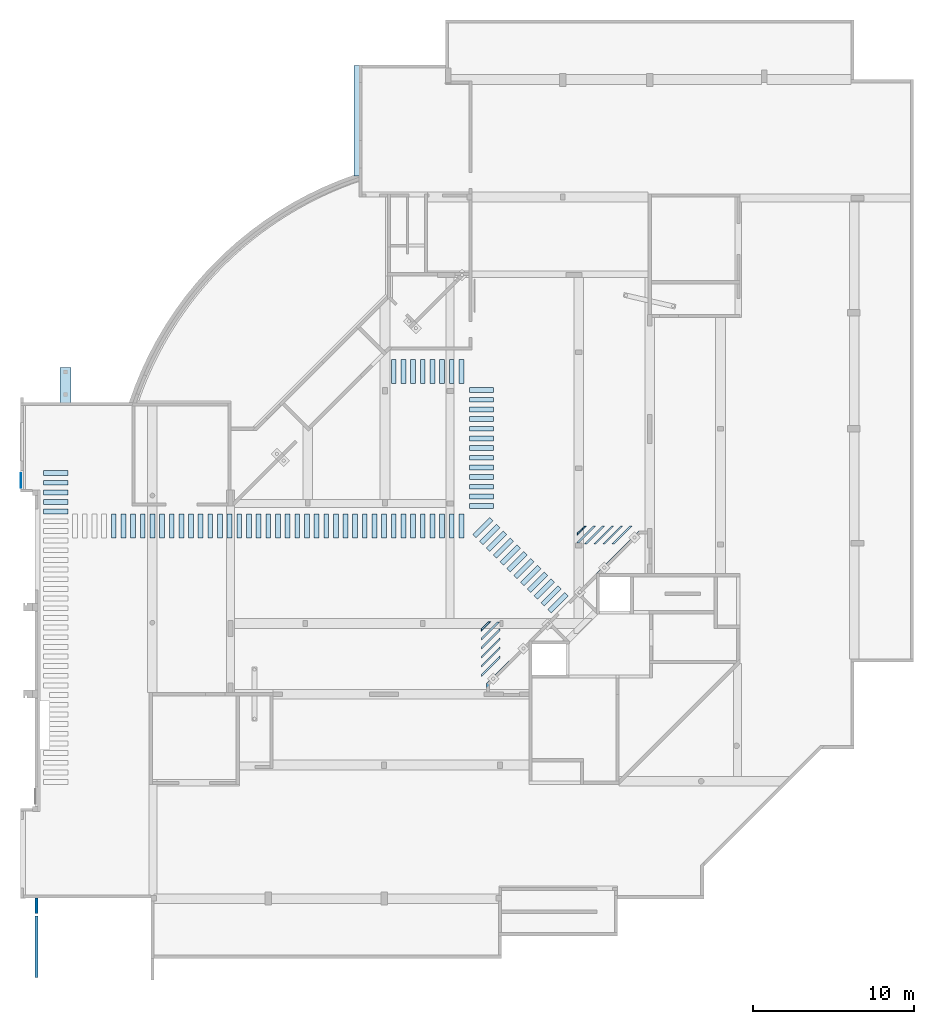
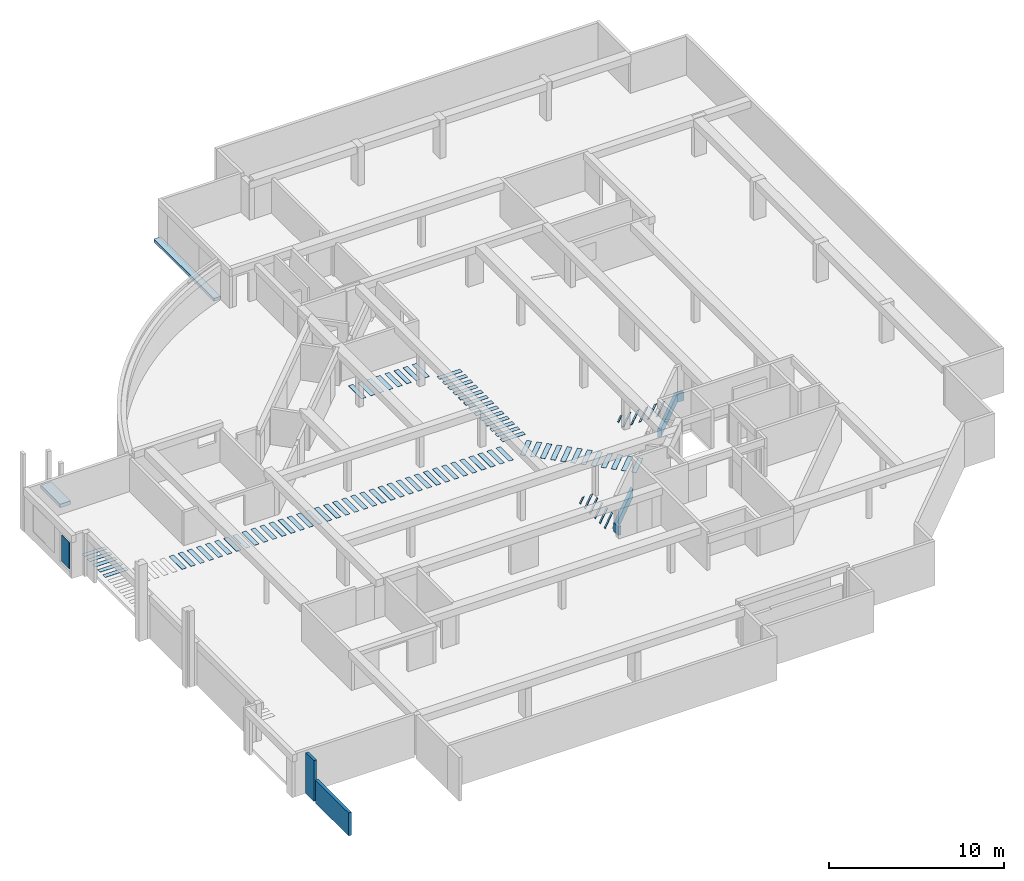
# One storey, part 3 of 12: 91 slabs, 2 walls, 1 plate.
"""IFC4X3_ADD2 building model written with IfcOpenShell, lengths in millimetres."""

from ifc_helpers import new_model, si_unit, direction, frame, frame_2d, origin_with_axes, origin_2d_with_axis, place, context, subcontext, project, spatial, polyline, rectangle, outline, extrude, clip, bounded_halfspace, source, transform, mapped, material, type_object, element, save


model = new_model("IFC4X3_ADD2")

# Units and contexts
model_context = context("Model", 3, precision=1e-05, world=origin_with_axes(), true_north=direction((0.0, 1.0)))
body_context = subcontext(model_context, "Body", "Model", "MODEL_VIEW")
ifc_project = project(units=[si_unit("LENGTHUNIT", "METRE", prefix="MILLI"), si_unit("AREAUNIT", "SQUARE_METRE"), si_unit("VOLUMEUNIT", "CUBIC_METRE"), si_unit("PLANEANGLEUNIT", "RADIAN"), si_unit("TIMEUNIT", "SECOND"), si_unit("MASSUNIT", "GRAM")], contexts=[model_context])

# Site, building, storey
site_placement = place(None, origin_with_axes())
site = spatial("IfcSite", under=ifc_project, at=site_placement, Name="Site", CompositionType="ELEMENT")
building_placement = place(site_placement, origin_with_axes())
building = spatial("IfcBuilding", under=site, at=building_placement, Name="IFC Building Story")
storey_placement = place(building_placement, frame((0.0, 0.0, -5940.0), z_axis=(0.0, 0.0, 1.0), x_axis=(1.0, 0.0, 0.0)))
storey = spatial("IfcBuildingStorey", under=building, at=storey_placement, Name="K20", Elevation=-5940.0)

# Slab
ifc_material_1 = material(Name="BB_Beton_Bestaand")
slab_type_1 = type_object("IfcSlabType", Name="BB_Beton_Bestaand 200", PredefinedType="FLOOR", material=ifc_material_1)
slab_1_placement = place(storey_placement, frame((-30959.20203089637, 51670.00000000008, -200.0), z_axis=(0.0, 0.0, 1.0), x_axis=(0.0, -1.0, 0.0)))
element("IfcSlab", 1, at=slab_1_placement, inside=storey, type_object=slab_type_1, Name="Floor:BB_XX_Vloer welfsels, 200 mm", ObjectType="Floor:BB_XX_Vloer welfsels, 200 mm", PredefinedType="FLOOR", context=body_context, shape_type="SweptSolid", body=[
    extrude(rectangle(XDim=6869.34417367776, YDim=459.2020308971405, at=frame_2d((0.0, 0.0), x_axis=(-1.0, 0.0))), frame((3434.67208683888, 229.6010154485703, 0.0), z_axis=(0.0, 0.0, 1.0), x_axis=(1.0, 0.0, 0.0)), (0.0, 0.0, 1.0), 200.0),
])

# Plate
ifc_material_2 = material(Name="BB_Metaal_Aluminium_Buitenschrijnwerk")
shared_shape = source(origin_with_axes(), body_context, "Body", "SweptSolid", [
    extrude(rectangle(XDim=1846.000000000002, YDim=888.000000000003, at=frame_2d((0.0, 0.0), x_axis=(0.0, 1.0))), frame((0.0, 0.0, -44.0), z_axis=(0.0, 0.0, 1.0), x_axis=(1.0, 0.0, 0.0)), (0.0, 0.0, 1.0), 44.0),
])
plate_placement = place(storey_placement, frame((-51636.0, 25895.0, 1021.0), z_axis=(1.0, 0.0, 0.0), x_axis=(0.0, -1.0, 0.0)))
element("IfcPlate", 2, at=plate_placement, inside=storey, material=ifc_material_2, Name="BB_07.06_Buitenbeglazing, rechthoekig_GMO:07.04.63#01_Vulpaneel, 44 mm", ObjectType="BB_07.06_Buitenbeglazing, rechthoekig_GMO:07.04.63#01_Vulpaneel, 44 mm", PredefinedType="USERDEFINED", context=body_context, shape_type="MappedRepresentation", body=[
    mapped(shared_shape, transform((0.0, 0.0, 0.0))),
])

# Slabs
ifc_material_3 = material(Name="BB_Belijning parkeervakken_Nieuw")
slab_type_2 = type_object("IfcSlabType", Name="BB_Belijning parkeervakken_Nieuw 10", PredefinedType="FLOOR", material=ifc_material_3)
for number, where, z_axis, x_axis, name in (
    (3, (-50249.99999999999, 23800.0, 0.0), (0.0, 0.0, 1.0), (1.0, 0.0, 0.0), "Floor:BB_13.XX_Epoxyverf, belijning zebrapaden"),
    (4, (-50249.99999999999, 24400.0, 0.0), (0.0, 0.0, 1.0), (1.0, 0.0, 0.0), "Floor:BB_13.XX_Epoxyverf, belijning zebrapaden"),
    (5, (-50249.99999999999, 25000.0, 0.0), (0.0, 0.0, 1.0), (1.0, 0.0, 0.0), "Floor:BB_13.XX_Epoxyverf, belijning zebrapaden"),
    (6, (-50249.99999999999, 25600.0, 0.0), (0.0, 0.0, 1.0), (1.0, 0.0, 0.0), "Floor:BB_13.XX_Epoxyverf, belijning zebrapaden"),
    (7, (-50249.99999999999, 26200.0, 0.0), (0.0, 0.0, 1.0), (1.0, 0.0, 0.0), "Floor:BB_13.XX_Epoxyverf, belijning zebrapaden"),
):
    element("IfcSlab", number, at=place(storey_placement, frame(where, z_axis=z_axis, x_axis=x_axis)), inside=storey, type_object=slab_type_2, Name=name, ObjectType="Floor:BB_13.XX_Epoxyverf, belijning zebrapaden", PredefinedType="FLOOR", context=body_context, shape_type="SweptSolid", body=[
        extrude(rectangle(XDim=1499.999999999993, YDim=300.0, at=origin_2d_with_axis()), frame((750.0, 150.0, 0.0), z_axis=(0.0, 0.0, 1.0), x_axis=(1.0, 0.0, 0.0)), (0.0, 0.0, 1.0), 9.99999999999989),
    ])
for number, where, z_axis, x_axis, name in (
    (8, (-46050.0, 23800.0, 0.0), (0.0, 0.0, 1.0), (0.0, -1.0, 0.0), "Floor:BB_13.XX_Epoxyverf, belijning zebrapaden"),
    (9, (-45450.0, 23800.0, 0.0), (0.0, 0.0, 1.0), (0.0, -1.0, 0.0), "Floor:BB_13.XX_Epoxyverf, belijning zebrapaden"),
    (10, (-44850.0, 23800.0, 0.0), (0.0, 0.0, 1.0), (0.0, -1.0, 0.0), "Floor:BB_13.XX_Epoxyverf, belijning zebrapaden"),
    (11, (-44250.0, 23800.0, 0.0), (0.0, 0.0, 1.0), (0.0, -1.0, 0.0), "Floor:BB_13.XX_Epoxyverf, belijning zebrapaden"),
    (12, (-43650.0, 23800.0, 0.0), (0.0, 0.0, 1.0), (0.0, -1.0, 0.0), "Floor:BB_13.XX_Epoxyverf, belijning zebrapaden"),
    (13, (-43050.0, 23800.0, 0.0), (0.0, 0.0, 1.0), (0.0, -1.0, 0.0), "Floor:BB_13.XX_Epoxyverf, belijning zebrapaden"),
    (14, (-42450.0, 23800.0, 0.0), (0.0, 0.0, 1.0), (0.0, -1.0, 0.0), "Floor:BB_13.XX_Epoxyverf, belijning zebrapaden"),
    (15, (-41850.0, 23800.0, 0.0), (0.0, 0.0, 1.0), (0.0, -1.0, 0.0), "Floor:BB_13.XX_Epoxyverf, belijning zebrapaden"),
    (16, (-41250.0, 23800.0, 0.0), (0.0, 0.0, 1.0), (0.0, -1.0, 0.0), "Floor:BB_13.XX_Epoxyverf, belijning zebrapaden"),
    (17, (-40650.0, 23800.0, 0.0), (0.0, 0.0, 1.0), (0.0, -1.0, 0.0), "Floor:BB_13.XX_Epoxyverf, belijning zebrapaden"),
    (18, (-40050.0, 23800.0, 0.0), (0.0, 0.0, 1.0), (0.0, -1.0, 0.0), "Floor:BB_13.XX_Epoxyverf, belijning zebrapaden"),
    (19, (-39450.0, 23800.0, 0.0), (0.0, 0.0, 1.0), (0.0, -1.0, 0.0), "Floor:BB_13.XX_Epoxyverf, belijning zebrapaden"),
):
    element("IfcSlab", number, at=place(storey_placement, frame(where, z_axis=z_axis, x_axis=x_axis)), inside=storey, type_object=slab_type_2, Name=name, ObjectType="Floor:BB_13.XX_Epoxyverf, belijning zebrapaden", PredefinedType="FLOOR", context=body_context, shape_type="SweptSolid", body=[
        extrude(rectangle(XDim=1499.999999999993, YDim=300.0, at=frame_2d((0.0, 0.0), x_axis=(-1.0, 0.0))), frame((750.0, 150.0, 0.0), z_axis=(0.0, 0.0, 1.0), x_axis=(1.0, 0.0, 0.0)), (0.0, 0.0, 1.0), 9.99999999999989),
    ])
slab_2_placement = place(storey_placement, frame((-38850.0, 23800.0, 0.0), z_axis=(0.0, 0.0, 1.0), x_axis=(0.0, -1.0, 0.0)))
element("IfcSlab", 20, at=slab_2_placement, inside=storey, type_object=slab_type_2, Name="Floor:BB_13.XX_Epoxyverf, belijning zebrapaden", ObjectType="Floor:BB_13.XX_Epoxyverf, belijning zebrapaden", PredefinedType="FLOOR", context=body_context, shape_type="SweptSolid", body=[
    extrude(rectangle(XDim=1499.999999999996, YDim=300.0, at=frame_2d((0.0, 0.0), x_axis=(-1.0, 0.0))), frame((750.0, 150.0, 0.0), z_axis=(0.0, 0.0, 1.0), x_axis=(1.0, 0.0, 0.0)), (0.0, 0.0, 1.0), 9.99999999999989),
])
slab_3_placement = place(storey_placement, frame((-22555.02525316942, 17170.71067811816, 0.0), z_axis=(0.0, 0.0, 1.0), x_axis=(-0.7071067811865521, -0.707106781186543, 0.0)))
element("IfcSlab", 21, at=slab_3_placement, inside=storey, type_object=slab_type_2, Name="Floor:BB_13.XX_Epoxyverf, belijning arcering", ObjectType="Floor:BB_13.XX_Epoxyverf, belijning arcering", PredefinedType="FLOOR", context=body_context, shape_type="SweptSolid", body=[
    extrude(outline(polyline([(-399.9999999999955, 49.99999999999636), (399.9999999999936, 49.99999999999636), (300.0, -50.0), (-299.9999999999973, -50.0), (-399.9999999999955, 49.99999999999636)])), frame((400.0, 50.0, 0.0), z_axis=(0.0, 0.0, 1.0), x_axis=(1.0, 0.0, 0.0)), (0.0, 0.0, 1.0), 9.99999999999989),
])
slab_4_placement = place(storey_placement, frame((-21989.33982822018, 17170.71067811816, 0.0), z_axis=(0.0, 0.0, 1.0), x_axis=(-0.7071067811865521, -0.707106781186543, 0.0)))
element("IfcSlab", 22, at=slab_4_placement, inside=storey, type_object=slab_type_2, Name="Floor:BB_13.XX_Epoxyverf, belijning arcering:2", ObjectType="Floor:BB_13.XX_Epoxyverf, belijning arcering", PredefinedType="FLOOR", context=body_context, shape_type="SweptSolid", body=[
    extrude(outline(polyline([(-799.9999999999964, 50.0), (799.9999999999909, 50.0), (699.9999999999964, -49.99999999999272), (-699.9999999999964, -50.0), (-799.9999999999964, 50.0)])), frame((799.9999999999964, 50.0, 0.0), z_axis=(0.0, 0.0, 1.0), x_axis=(1.0, 0.0, 0.0)), (0.0, 0.0, 1.0), 9.99999999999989),
])
for number, where, z_axis, x_axis, name in (
    (23, (-21900.00000000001, 16694.3650813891, 0.0), (0.0, 0.0, 1.0), (-0.7071067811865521, -0.707106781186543, 0.0), "Floor:BB_13.XX_Epoxyverf, belijning arcering:3"),
    (24, (-21900.00000000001, 16128.67965643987, 0.0), (0.0, 0.0, 1.0), (-0.7071067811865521, -0.707106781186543, 0.0), "Floor:BB_13.XX_Epoxyverf, belijning arcering:4"),
    (25, (-21900.00000000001, 15562.99423149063, 0.0), (0.0, 0.0, 1.0), (-0.7071067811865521, -0.707106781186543, 0.0), "Floor:BB_13.XX_Epoxyverf, belijning arcering:5"),
    (26, (-21900.00000000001, 14997.3088065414, 0.0), (0.0, 0.0, 1.0), (-0.7071067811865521, -0.707106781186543, 0.0), "Floor:BB_13.XX_Epoxyverf, belijning arcering:6"),
):
    element("IfcSlab", number, at=place(storey_placement, frame(where, z_axis=z_axis, x_axis=x_axis)), inside=storey, type_object=slab_type_2, Name=name, ObjectType="Floor:BB_13.XX_Epoxyverf, belijning arcering", PredefinedType="FLOOR", context=body_context, shape_type="SweptSolid", body=[
        extrude(outline(polyline([(-763.1727983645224, 49.99999999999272), (863.1727983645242, 49.99999999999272), (763.1727983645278, -50.00000000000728), (-863.1727983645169, -50.00000000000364), (-763.1727983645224, 49.99999999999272)])), frame((863.1727983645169, 49.99999999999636, 0.0), z_axis=(0.0, 0.0, 1.0), x_axis=(1.0, 0.0, 0.0)), (0.0, 0.0, 1.0), 9.99999999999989),
    ])
for number, where, z_axis, x_axis, name in (
    (27, (-38250.0, 23800.0, 0.0), (0.0, 0.0, 1.0), (0.0, -1.0, 0.0), "Floor:BB_13.XX_Epoxyverf, belijning zebrapaden"),
    (28, (-37650.0, 23800.0, 0.0), (0.0, 0.0, 1.0), (0.0, -1.0, 0.0), "Floor:BB_13.XX_Epoxyverf, belijning zebrapaden"),
    (29, (-37050.0, 23800.0, 0.0), (0.0, 0.0, 1.0), (0.0, -1.0, 0.0), "Floor:BB_13.XX_Epoxyverf, belijning zebrapaden"),
    (30, (-36450.0, 23800.0, 0.0), (0.0, 0.0, 1.0), (0.0, -1.0, 0.0), "Floor:BB_13.XX_Epoxyverf, belijning zebrapaden"),
    (31, (-35850.0, 23800.0, 0.0), (0.0, 0.0, 1.0), (0.0, -1.0, 0.0), "Floor:BB_13.XX_Epoxyverf, belijning zebrapaden"),
    (32, (-35250.0, 23800.0, 0.0), (0.0, 0.0, 1.0), (0.0, -1.0, 0.0), "Floor:BB_13.XX_Epoxyverf, belijning zebrapaden"),
    (33, (-34650.0, 23800.0, 0.0), (0.0, 0.0, 1.0), (0.0, -1.0, 0.0), "Floor:BB_13.XX_Epoxyverf, belijning zebrapaden"),
    (34, (-34050.0, 23800.0, 0.0), (0.0, 0.0, 1.0), (0.0, -1.0, 0.0), "Floor:BB_13.XX_Epoxyverf, belijning zebrapaden"),
    (35, (-33450.0, 23800.0, 0.0), (0.0, 0.0, 1.0), (0.0, -1.0, 0.0), "Floor:BB_13.XX_Epoxyverf, belijning zebrapaden"),
):
    element("IfcSlab", number, at=place(storey_placement, frame(where, z_axis=z_axis, x_axis=x_axis)), inside=storey, type_object=slab_type_2, Name=name, ObjectType="Floor:BB_13.XX_Epoxyverf, belijning zebrapaden", PredefinedType="FLOOR", context=body_context, shape_type="SweptSolid", body=[
        extrude(rectangle(XDim=1499.999999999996, YDim=300.0, at=frame_2d((0.0, 0.0), x_axis=(-1.0, 0.0))), frame((750.0, 150.0, 0.0), z_axis=(0.0, 0.0, 1.0), x_axis=(1.0, 0.0, 0.0)), (0.0, 0.0, 1.0), 9.99999999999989),
    ])
slab_5_placement = place(storey_placement, frame((-32850.0, 23800.0, 0.0), z_axis=(0.0, 0.0, 1.0), x_axis=(0.0, -1.0, 0.0)))
element("IfcSlab", 36, at=slab_5_placement, inside=storey, type_object=slab_type_2, Name="Floor:BB_13.XX_Epoxyverf, belijning zebrapaden", ObjectType="Floor:BB_13.XX_Epoxyverf, belijning zebrapaden", PredefinedType="FLOOR", context=body_context, shape_type="SweptSolid", body=[
    extrude(rectangle(XDim=1499.999999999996, YDim=299.9999999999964, at=frame_2d((0.0, 0.0), x_axis=(-1.0, 0.0))), frame((750.0, 150.0, 0.0), z_axis=(0.0, 0.0, 1.0), x_axis=(1.0, 0.0, 0.0)), (0.0, 0.0, 1.0), 9.99999999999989),
])
for number, where, z_axis, x_axis, name in (
    (37, (-32250.0, 23800.0, 0.0), (0.0, 0.0, 1.0), (0.0, -1.0, 0.0), "Floor:BB_13.XX_Epoxyverf, belijning zebrapaden"),
    (38, (-31650.0, 23800.0, 0.0), (0.0, 0.0, 1.0), (0.0, -1.0, 0.0), "Floor:BB_13.XX_Epoxyverf, belijning zebrapaden"),
    (39, (-31050.0, 23800.0, 0.0), (0.0, 0.0, 1.0), (0.0, -1.0, 0.0), "Floor:BB_13.XX_Epoxyverf, belijning zebrapaden"),
    (40, (-30450.0, 23800.0, 0.0), (0.0, 0.0, 1.0), (0.0, -1.0, 0.0), "Floor:BB_13.XX_Epoxyverf, belijning zebrapaden"),
    (41, (-29850.0, 23800.0, 0.0), (0.0, 0.0, 1.0), (0.0, -1.0, 0.0), "Floor:BB_13.XX_Epoxyverf, belijning zebrapaden"),
    (42, (-29250.0, 23800.0, 0.0), (0.0, 0.0, 1.0), (0.0, -1.0, 0.0), "Floor:BB_13.XX_Epoxyverf, belijning zebrapaden"),
    (43, (-28650.0, 23800.0, 0.0), (0.0, 0.0, 1.0), (0.0, -1.0, 0.0), "Floor:BB_13.XX_Epoxyverf, belijning zebrapaden"),
    (44, (-28050.0, 23800.0, 0.0), (0.0, 0.0, 1.0), (0.0, -1.0, 0.0), "Floor:BB_13.XX_Epoxyverf, belijning zebrapaden"),
    (45, (-27450.0, 23800.0, 0.0), (0.0, 0.0, 1.0), (0.0, -1.0, 0.0), "Floor:BB_13.XX_Epoxyverf, belijning zebrapaden"),
    (46, (-26850.0, 23800.0, 0.0), (0.0, 0.0, 1.0), (0.0, -1.0, 0.0), "Floor:BB_13.XX_Epoxyverf, belijning zebrapaden"),
    (47, (-26250.0, 23800.0, 0.0), (0.0, 0.0, 1.0), (0.0, -1.0, 0.0), "Floor:BB_13.XX_Epoxyverf, belijning zebrapaden"),
    (48, (-25650.0, 23800.0, 0.0), (0.0, 0.0, 1.0), (0.0, -1.0, 0.0), "Floor:BB_13.XX_Epoxyverf, belijning zebrapaden"),
    (49, (-25050.0, 23800.0, 0.0), (0.0, 0.0, 1.0), (0.0, -1.0, 0.0), "Floor:BB_13.XX_Epoxyverf, belijning zebrapaden"),
    (50, (-24450.0, 23800.0, 0.0), (0.0, 0.0, 1.0), (0.0, -1.0, 0.0), "Floor:BB_13.XX_Epoxyverf, belijning zebrapaden"),
):
    element("IfcSlab", number, at=place(storey_placement, frame(where, z_axis=z_axis, x_axis=x_axis)), inside=storey, type_object=slab_type_2, Name=name, ObjectType="Floor:BB_13.XX_Epoxyverf, belijning zebrapaden", PredefinedType="FLOOR", context=body_context, shape_type="SweptSolid", body=[
        extrude(rectangle(XDim=1499.999999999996, YDim=299.9999999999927, at=frame_2d((0.0, 0.0), x_axis=(-1.0, 0.0))), frame((750.0, 150.0, 0.0), z_axis=(0.0, 0.0, 1.0), x_axis=(1.0, 0.0, 0.0)), (0.0, 0.0, 1.0), 9.99999999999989),
    ])
slab_6_placement = place(storey_placement, frame((-22536.39610306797, 23597.05627484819, 0.0), z_axis=(0.0, 0.0, 1.0), x_axis=(-0.7071067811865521, -0.707106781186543, 0.0)))
element("IfcSlab", 51, at=slab_6_placement, inside=storey, type_object=slab_type_2, Name="Floor:BB_13.XX_Epoxyverf, belijning zebrapaden", ObjectType="Floor:BB_13.XX_Epoxyverf, belijning zebrapaden", PredefinedType="FLOOR", context=body_context, shape_type="SweptSolid", body=[
    extrude(rectangle(XDim=1499.999999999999, YDim=299.9999999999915, at=frame_2d((0.0, 0.0), x_axis=(-1.0, 0.0))), frame((750.0, 150.0, 0.0), z_axis=(0.0, 0.0, 1.0), x_axis=(1.0, 0.0, 0.0)), (0.0, 0.0, 1.0), 9.99999999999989),
])
for number, where, z_axis, x_axis, name in (
    (52, (-23800.0, 24150.0, 0.0), (0.0, 0.0, 1.0), (1.0, 0.0, 0.0), "Floor:BB_13.XX_Epoxyverf, belijning zebrapaden"),
    (53, (-23800.0, 24750.0, 0.0), (0.0, 0.0, 1.0), (1.0, 0.0, 0.0), "Floor:BB_13.XX_Epoxyverf, belijning zebrapaden"),
    (54, (-23800.0, 25350.0, 0.0), (0.0, 0.0, 1.0), (1.0, 0.0, 0.0), "Floor:BB_13.XX_Epoxyverf, belijning zebrapaden"),
    (55, (-23800.0, 25950.0, 0.0), (0.0, 0.0, 1.0), (1.0, 0.0, 0.0), "Floor:BB_13.XX_Epoxyverf, belijning zebrapaden"),
    (56, (-23800.0, 26550.0, 0.0), (0.0, 0.0, 1.0), (1.0, 0.0, 0.0), "Floor:BB_13.XX_Epoxyverf, belijning zebrapaden"),
    (57, (-23800.0, 27150.0, 0.0), (0.0, 0.0, 1.0), (1.0, 0.0, 0.0), "Floor:BB_13.XX_Epoxyverf, belijning zebrapaden"),
    (58, (-23800.0, 27750.0, 0.0), (0.0, 0.0, 1.0), (1.0, 0.0, 0.0), "Floor:BB_13.XX_Epoxyverf, belijning zebrapaden"),
    (59, (-23800.0, 28350.0, 0.0), (0.0, 0.0, 1.0), (1.0, 0.0, 0.0), "Floor:BB_13.XX_Epoxyverf, belijning zebrapaden"),
    (60, (-23800.0, 28950.0, 0.0), (0.0, 0.0, 1.0), (1.0, 0.0, 0.0), "Floor:BB_13.XX_Epoxyverf, belijning zebrapaden"),
    (61, (-23800.0, 29550.0, 0.0), (0.0, 0.0, 1.0), (1.0, 0.0, 0.0), "Floor:BB_13.XX_Epoxyverf, belijning zebrapaden"),
    (62, (-23800.0, 30150.0, 0.0), (0.0, 0.0, 1.0), (1.0, 0.0, 0.0), "Floor:BB_13.XX_Epoxyverf, belijning zebrapaden"),
    (63, (-23800.0, 30750.0, 0.0), (0.0, 0.0, 1.0), (1.0, 0.0, 0.0), "Floor:BB_13.XX_Epoxyverf, belijning zebrapaden"),
    (64, (-23800.0, 31350.0, 0.0), (0.0, 0.0, 1.0), (1.0, 0.0, 0.0), "Floor:BB_13.XX_Epoxyverf, belijning zebrapaden"),
):
    element("IfcSlab", number, at=place(storey_placement, frame(where, z_axis=z_axis, x_axis=x_axis)), inside=storey, type_object=slab_type_2, Name=name, ObjectType="Floor:BB_13.XX_Epoxyverf, belijning zebrapaden", PredefinedType="FLOOR", context=body_context, shape_type="SweptSolid", body=[
        extrude(rectangle(XDim=1499.999999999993, YDim=300.0, at=origin_2d_with_axis()), frame((750.0, 150.0, 0.0), z_axis=(0.0, 0.0, 1.0), x_axis=(1.0, 0.0, 0.0)), (0.0, 0.0, 1.0), 9.99999999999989),
    ])
for number, where, z_axis, x_axis, name in (
    (65, (-24450.0, 33400.0, 0.0), (0.0, 0.0, 1.0), (0.0, -1.0, 0.0), "Floor:BB_13.XX_Epoxyverf, belijning zebrapaden"),
    (66, (-25050.0, 33400.0, 0.0), (0.0, 0.0, 1.0), (0.0, -1.0, 0.0), "Floor:BB_13.XX_Epoxyverf, belijning zebrapaden"),
    (67, (-25650.0, 33400.0, 0.0), (0.0, 0.0, 1.0), (0.0, -1.0, 0.0), "Floor:BB_13.XX_Epoxyverf, belijning zebrapaden"),
    (68, (-26250.0, 33400.0, 0.0), (0.0, 0.0, 1.0), (0.0, -1.0, 0.0), "Floor:BB_13.XX_Epoxyverf, belijning zebrapaden"),
    (69, (-26850.0, 33400.0, 0.0), (0.0, 0.0, 1.0), (0.0, -1.0, 0.0), "Floor:BB_13.XX_Epoxyverf, belijning zebrapaden"),
    (70, (-27450.0, 33400.0, 0.0), (0.0, 0.0, 1.0), (0.0, -1.0, 0.0), "Floor:BB_13.XX_Epoxyverf, belijning zebrapaden"),
    (71, (-28050.0, 33400.0, 0.0), (0.0, 0.0, 1.0), (0.0, -1.0, 0.0), "Floor:BB_13.XX_Epoxyverf, belijning zebrapaden"),
    (72, (-28650.0, 33400.0, 0.0), (0.0, 0.0, 1.0), (0.0, -1.0, 0.0), "Floor:BB_13.XX_Epoxyverf, belijning zebrapaden"),
):
    element("IfcSlab", number, at=place(storey_placement, frame(where, z_axis=z_axis, x_axis=x_axis)), inside=storey, type_object=slab_type_2, Name=name, ObjectType="Floor:BB_13.XX_Epoxyverf, belijning zebrapaden", PredefinedType="FLOOR", context=body_context, shape_type="SweptSolid", body=[
        extrude(rectangle(XDim=1500.0, YDim=299.9999999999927, at=frame_2d((0.0, 0.0), x_axis=(-1.0, 0.0))), frame((750.0, 150.0, 0.0), z_axis=(0.0, 0.0, 1.0), x_axis=(1.0, 0.0, 0.0)), (0.0, 0.0, 1.0), 9.99999999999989),
    ])
slab_7_placement = place(storey_placement, frame((-22112.13203435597, 23172.79220613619, 0.0), z_axis=(0.0, 0.0, 1.0), x_axis=(-0.7071067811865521, -0.707106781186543, 0.0)))
element("IfcSlab", 73, at=slab_7_placement, inside=storey, type_object=slab_type_2, Name="Floor:BB_13.XX_Epoxyverf, belijning zebrapaden", ObjectType="Floor:BB_13.XX_Epoxyverf, belijning zebrapaden", PredefinedType="FLOOR", context=body_context, shape_type="SweptSolid", body=[
    extrude(rectangle(XDim=1499.999999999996, YDim=299.999999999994, at=frame_2d((0.0, 0.0), x_axis=(-1.0, 0.0))), frame((750.0, 150.0, 0.0), z_axis=(0.0, 0.0, 1.0), x_axis=(1.0, 0.0, 0.0)), (0.0, 0.0, 1.0), 9.99999999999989),
])
for number, where, z_axis, x_axis, name in (
    (74, (-21687.86796564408, 22748.52813742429, 0.0), (0.0, 0.0, 1.0), (-0.7071067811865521, -0.707106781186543, 0.0), "Floor:BB_13.XX_Epoxyverf, belijning zebrapaden"),
    (75, (-21263.60389693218, 22324.26406871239, 0.0), (0.0, 0.0, 1.0), (-0.7071067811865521, -0.707106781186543, 0.0), "Floor:BB_13.XX_Epoxyverf, belijning zebrapaden"),
    (76, (-20839.33982822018, 21900.00000000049, 0.0), (0.0, 0.0, 1.0), (-0.7071067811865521, -0.707106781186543, 0.0), "Floor:BB_13.XX_Epoxyverf, belijning zebrapaden"),
):
    element("IfcSlab", number, at=place(storey_placement, frame(where, z_axis=z_axis, x_axis=x_axis)), inside=storey, type_object=slab_type_2, Name=name, ObjectType="Floor:BB_13.XX_Epoxyverf, belijning zebrapaden", PredefinedType="FLOOR", context=body_context, shape_type="SweptSolid", body=[
        extrude(rectangle(XDim=1499.999999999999, YDim=299.9999999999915, at=frame_2d((0.0, 0.0), x_axis=(-1.0, 0.0))), frame((750.0, 150.0, 0.0), z_axis=(0.0, 0.0, 1.0), x_axis=(1.0, 0.0, 0.0)), (0.0, 0.0, 1.0), 9.99999999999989),
    ])
slab_8_placement = place(storey_placement, frame((-20415.07575950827, 21475.73593128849, 0.0), z_axis=(0.0, 0.0, 1.0), x_axis=(-0.7071067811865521, -0.707106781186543, 0.0)))
element("IfcSlab", 77, at=slab_8_placement, inside=storey, type_object=slab_type_2, Name="Floor:BB_13.XX_Epoxyverf, belijning zebrapaden", ObjectType="Floor:BB_13.XX_Epoxyverf, belijning zebrapaden", PredefinedType="FLOOR", context=body_context, shape_type="SweptSolid", body=[
    extrude(rectangle(XDim=1499.999999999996, YDim=299.999999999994, at=frame_2d((0.0, 0.0), x_axis=(-1.0, 0.0))), frame((750.0, 150.0, 0.0), z_axis=(0.0, 0.0, 1.0), x_axis=(1.0, 0.0, 0.0)), (0.0, 0.0, 1.0), 9.99999999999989),
])
slab_9_placement = place(storey_placement, frame((-19990.81169079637, 21051.47186257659, 0.0), z_axis=(0.0, 0.0, 1.0), x_axis=(-0.7071067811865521, -0.707106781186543, 0.0)))
element("IfcSlab", 78, at=slab_9_placement, inside=storey, type_object=slab_type_2, Name="Floor:BB_13.XX_Epoxyverf, belijning zebrapaden", ObjectType="Floor:BB_13.XX_Epoxyverf, belijning zebrapaden", PredefinedType="FLOOR", context=body_context, shape_type="SweptSolid", body=[
    extrude(rectangle(XDim=1499.999999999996, YDim=299.9999999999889, at=frame_2d((0.0, 0.0), x_axis=(-1.0, 0.0))), frame((750.0, 150.0, 0.0), z_axis=(0.0, 0.0, 1.0), x_axis=(1.0, 0.0, 0.0)), (0.0, 0.0, 1.0), 9.99999999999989),
])
for number, where, z_axis, x_axis, name in (
    (79, (-19566.54762208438, 20627.20779386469, 0.0), (0.0, 0.0, 1.0), (-0.7071067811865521, -0.707106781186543, 0.0), "Floor:BB_13.XX_Epoxyverf, belijning zebrapaden"),
    (80, (-19142.28355337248, 20202.94372515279, 0.0), (0.0, 0.0, 1.0), (-0.7071067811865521, -0.707106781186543, 0.0), "Floor:BB_13.XX_Epoxyverf, belijning zebrapaden"),
):
    element("IfcSlab", number, at=place(storey_placement, frame(where, z_axis=z_axis, x_axis=x_axis)), inside=storey, type_object=slab_type_2, Name=name, ObjectType="Floor:BB_13.XX_Epoxyverf, belijning zebrapaden", PredefinedType="FLOOR", context=body_context, shape_type="SweptSolid", body=[
        extrude(rectangle(XDim=1499.999999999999, YDim=299.9999999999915, at=frame_2d((0.0, 0.0), x_axis=(-1.0, 0.0))), frame((750.0, 150.0, 0.0), z_axis=(0.0, 0.0, 1.0), x_axis=(1.0, 0.0, 0.0)), (0.0, 0.0, 1.0), 9.99999999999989),
    ])
slab_10_placement = place(storey_placement, frame((-18718.01948466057, 19778.67965644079, 0.0), z_axis=(0.0, 0.0, 1.0), x_axis=(-0.7071067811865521, -0.707106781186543, 0.0)))
element("IfcSlab", 81, at=slab_10_placement, inside=storey, type_object=slab_type_2, Name="Floor:BB_13.XX_Epoxyverf, belijning zebrapaden", ObjectType="Floor:BB_13.XX_Epoxyverf, belijning zebrapaden", PredefinedType="FLOOR", context=body_context, shape_type="SweptSolid", body=[
    extrude(rectangle(XDim=1499.999999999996, YDim=299.999999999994, at=frame_2d((0.0, 0.0), x_axis=(-1.0, 0.0))), frame((750.0, 150.0, 0.0), z_axis=(0.0, 0.0, 1.0), x_axis=(1.0, 0.0, 0.0)), (0.0, 0.0, 1.0), 9.99999999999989),
])
slab_11_placement = place(storey_placement, frame((-18293.75541594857, 19354.41558772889, 0.0), z_axis=(0.0, 0.0, 1.0), x_axis=(-0.7071067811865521, -0.707106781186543, 0.0)))
element("IfcSlab", 82, at=slab_11_placement, inside=storey, type_object=slab_type_2, Name="Floor:BB_13.XX_Epoxyverf, belijning zebrapaden", ObjectType="Floor:BB_13.XX_Epoxyverf, belijning zebrapaden", PredefinedType="FLOOR", context=body_context, shape_type="SweptSolid", body=[
    extrude(rectangle(XDim=1499.999999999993, YDim=299.9999999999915, at=frame_2d((0.0, 0.0), x_axis=(-1.0, 0.0))), frame((750.0, 150.0, 0.0), z_axis=(0.0, 0.0, 1.0), x_axis=(1.0, 0.0, 0.0)), (0.0, 0.0, 1.0), 9.99999999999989),
])
slab_12_placement = place(storey_placement, frame((-17869.49134723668, 18930.15151901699, 0.0), z_axis=(0.0, 0.0, 1.0), x_axis=(-0.7071067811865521, -0.707106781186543, 0.0)))
element("IfcSlab", 83, at=slab_12_placement, inside=storey, type_object=slab_type_2, Name="Floor:BB_13.XX_Epoxyverf, belijning zebrapaden", ObjectType="Floor:BB_13.XX_Epoxyverf, belijning zebrapaden", PredefinedType="FLOOR", context=body_context, shape_type="SweptSolid", body=[
    extrude(rectangle(XDim=1499.999999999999, YDim=299.9999999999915, at=frame_2d((0.0, 0.0), x_axis=(-1.0, 0.0))), frame((750.0, 150.0, 0.0), z_axis=(0.0, 0.0, 1.0), x_axis=(1.0, 0.0, 0.0)), (0.0, 0.0, 1.0), 9.99999999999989),
])
slab_13_placement = place(storey_placement, frame((-16605.02525316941, 23120.71067811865, 0.0), z_axis=(0.0, 0.0, 1.0), x_axis=(-0.7071067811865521, -0.707106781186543, 0.0)))
element("IfcSlab", 84, at=slab_13_placement, inside=storey, type_object=slab_type_2, Name="Floor:BB_13.XX_Epoxyverf, belijning arcering", ObjectType="Floor:BB_13.XX_Epoxyverf, belijning arcering", PredefinedType="FLOOR", context=body_context, shape_type="SweptSolid", body=[
    extrude(outline(polyline([(-399.9999999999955, 49.99999999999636), (399.9999999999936, 49.99999999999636), (300.0, -50.0), (-299.9999999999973, -50.0), (-399.9999999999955, 49.99999999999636)])), frame((400.0, 50.0, 0.0), z_axis=(0.0, 0.0, 1.0), x_axis=(1.0, 0.0, 0.0)), (0.0, 0.0, 1.0), 9.99999999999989),
])
slab_14_placement = place(storey_placement, frame((-16039.33982822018, 23120.71067811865, 0.0), z_axis=(0.0, 0.0, 1.0), x_axis=(-0.7071067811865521, -0.707106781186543, 0.0)))
element("IfcSlab", 85, at=slab_14_placement, inside=storey, type_object=slab_type_2, Name="Floor:BB_13.XX_Epoxyverf, belijning arcering:2", ObjectType="Floor:BB_13.XX_Epoxyverf, belijning arcering", PredefinedType="FLOOR", context=body_context, shape_type="SweptSolid", body=[
    extrude(outline(polyline([(559.4469683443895, 51.50757595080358), (616.9848480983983, -6.030303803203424), (574.5227278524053, -48.49242404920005), (-825.4772721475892, -48.49242404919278), (-925.4772721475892, 51.50757595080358), (559.4469683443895, 51.50757595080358)])), frame((925.4772721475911, 48.49242404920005, 0.0), z_axis=(0.0, 0.0, 1.0), x_axis=(1.0, 0.0, 0.0)), (0.0, 0.0, 1.0), 9.99999999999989),
])
for number, where, z_axis, x_axis, name in (
    (86, (-15473.65440327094, 23120.71067811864, 0.0), (0.0, 0.0, 1.0), (-0.7071067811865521, -0.707106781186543, 0.0), "Floor:BB_13.XX_Epoxyverf, belijning arcering:3"),
    (87, (-14907.96897832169, 23120.71067811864, 0.0), (0.0, 0.0, 1.0), (-0.7071067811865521, -0.707106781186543, 0.0), "Floor:BB_13.XX_Epoxyverf, belijning arcering:4"),
    (88, (-14342.28355337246, 23120.71067811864, 0.0), (0.0, 0.0, 1.0), (-0.7071067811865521, -0.707106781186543, 0.0), "Floor:BB_13.XX_Epoxyverf, belijning arcering:5"),
    (89, (-13776.59812842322, 23120.71067811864, 0.0), (0.0, 0.0, 1.0), (-0.7071067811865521, -0.707106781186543, 0.0), "Floor:BB_13.XX_Epoxyverf, belijning arcering:6"),
):
    element("IfcSlab", number, at=place(storey_placement, frame(where, z_axis=z_axis, x_axis=x_axis)), inside=storey, type_object=slab_type_2, Name=name, ObjectType="Floor:BB_13.XX_Epoxyverf, belijning arcering", PredefinedType="FLOOR", context=body_context, shape_type="SweptSolid", body=[
        extrude(outline(polyline([(-827.8174593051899, 50.0), (727.8174593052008, 50.0), (827.8174593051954, -49.99999999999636), (-727.8174593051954, -49.99999999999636), (-827.8174593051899, 50.0)])), frame((827.8174593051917, 49.99999999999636, 0.0), z_axis=(0.0, 0.0, 1.0), x_axis=(1.0, 0.0, 0.0)), (0.0, 0.0, 1.0), 9.99999999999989),
    ])
ifc_material_4 = material(Name="Concrete, C30/37")
slab_type_3 = type_object("IfcSlabType", Name="Concrete, C30/37 190", PredefinedType="FLOOR", material=ifc_material_4)
slab_15_placement = place(storey_placement, frame((-20099.9999999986, 15910.58347294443, 0.0), z_axis=(-0.7069491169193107, 0.7072644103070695, 0.0), x_axis=(-0.7072644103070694, -0.7069491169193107, 0.0)))
element("IfcSlab", 90, at=slab_15_placement, inside=storey, type_object=slab_type_3, Name="Foundation Slab:Foundation Slab 600 mm dik", ObjectType="Foundation Slab:Foundation Slab 600 mm dik", PredefinedType="FLOOR", context=body_context, shape_type="Clipping", body=[
    clip(clip(clip(clip(clip(extrude(outline(polyline([(-2052.439592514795, 300.0), (2052.439592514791, 300.0), (2052.439592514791, -300.0), (-2052.439592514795, -300.0), (-2052.439592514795, 300.0)])), frame((2052.439592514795, 300.0, -499.8065476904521), z_axis=(0.0, 0.0, 1.0), x_axis=(1.0, 0.0, 0.0)), (0.0, 0.0, 1.0), 499.8065476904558), bounded_halfspace(frame((12980.77074114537, 5940.0, -9520.964101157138), z_axis=(-0.7072644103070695, 0.0, -0.7069491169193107), x_axis=(-0.7069491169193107, 0.0, 0.7072644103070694)), False, frame((2052.439592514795, 300.0, -499.8065476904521), z_axis=(0.0, 0.0, 1.0), x_axis=(1.0, 0.0, 0.0)), polyline([(1911.195162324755, -300.0), (1601.526724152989, -300.0), (1601.526724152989, 300.0), (1911.195162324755, 300.0), (1911.195162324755, -300.0)]))), bounded_halfspace(frame((-2968.041711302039, 5940.0, -189.9999999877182), z_axis=(0.0, 0.0, -1.0), x_axis=(-1.0, 0.0, 0.0)), False, frame((2052.439592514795, 300.0, -499.8065476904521), z_axis=(0.0, 0.0, 1.0), x_axis=(1.0, 0.0, 0.0)), polyline([(1601.526724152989, -300.0), (-1862.524293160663, -300.0), (-1862.524293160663, 300.0), (1601.526724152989, 300.0), (1601.526724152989, -300.0)]))), bounded_halfspace(frame((11247.97293586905, 5940.0, -11252.98943763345), z_axis=(-0.7072644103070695, 0.0, -0.7069491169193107), x_axis=(-0.7069491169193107, 0.0, 0.7072644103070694)), False, frame((2052.439592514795, 300.0, -499.8065476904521), z_axis=(0.0, 0.0, 1.0), x_axis=(1.0, 0.0, 0.0)), polyline([(-1862.524293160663, -300.0), (-2052.439592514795, -300.0), (-2052.439592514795, 300.0), (-1862.524293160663, 300.0), (-1862.524293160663, -300.0)]))), bounded_halfspace(frame((13122.01517133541, 5940.0, -9379.78263671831), z_axis=(0.7072644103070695, 0.0, 0.7069491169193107), x_axis=(0.7069491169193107, 0.0, -0.7072644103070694)), False, frame((2052.439592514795, 300.0, -499.8065476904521), z_axis=(0.0, 0.0, 1.0), x_axis=(1.0, 0.0, 0.0)), polyline([(1693.974381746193, -300.0), (2052.439592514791, -300.0), (2052.439592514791, 300.0), (1693.974381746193, 300.0), (1693.974381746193, -300.0)]))), bounded_halfspace(frame((-11985.17769760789, 5940.0, -16441.50913424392), z_axis=(0.7069491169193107, 0.0, -0.7072644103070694), x_axis=(-0.7072644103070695, 0.0, -0.7069491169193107)), False, frame((2052.439592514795, 300.0, -499.8065476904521), z_axis=(0.0, 0.0, 1.0), x_axis=(1.0, 0.0, 0.0)), polyline([(2052.439592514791, -300.0), (1911.195162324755, -300.0), (1911.195162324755, 300.0), (2052.439592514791, 300.0), (2052.439592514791, -300.0)]))),
])
slab_16_placement = place(storey_placement, frame((-13000.84949623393, 23010.90062551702, 0.0), z_axis=(-0.7071067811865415, 0.7071067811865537, 0.0), x_axis=(-0.7071067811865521, -0.707106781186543, 0.0)))
element("IfcSlab", 91, at=slab_16_placement, inside=storey, type_object=slab_type_3, Name="Foundation Slab:Foundation Slab 600 mm dik", ObjectType="Foundation Slab:Foundation Slab 600 mm dik", PredefinedType="FLOOR", context=body_context, shape_type="Clipping", body=[
    clip(clip(clip(clip(clip(extrude(outline(polyline([(2053.729363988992, -300.0), (-2053.729363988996, -300.0), (-2053.729363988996, 300.0), (2053.729363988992, 300.0), (2053.729363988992, -300.0)])), frame((2053.729363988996, 300.0, -493.1803504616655), z_axis=(0.0, 0.0, 1.0), x_axis=(1.0, 0.0, 0.0)), (0.0, 0.0, 1.0), 493.1803504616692), bounded_halfspace(frame((-7138.595900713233, 5940.0, -11241.04121841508), z_axis=(0.7069491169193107, 0.0, -0.7072644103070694), x_axis=(-0.7072644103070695, 0.0, -0.7069491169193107)), False, frame((2053.729363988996, 300.0, -493.1803504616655), z_axis=(0.0, 0.0, 1.0), x_axis=(1.0, 0.0, 0.0)), polyline([(2053.729363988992, -300.0), (1863.644625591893, -300.0), (1863.644625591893, 300.0), (2053.729363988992, 300.0), (2053.729363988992, -300.0)]))), bounded_halfspace(frame((7078.175033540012, 5940.0, -189.9999999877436), z_axis=(0.0, 0.0, -1.0), x_axis=(-1.0, 0.0, 0.0)), False, frame((2053.729363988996, 300.0, -493.1803504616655), z_axis=(0.0, 0.0, 1.0), x_axis=(1.0, 0.0, 0.0)), polyline([(1863.644625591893, -300.0), (-1609.023974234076, -300.0), (-1609.023974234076, 300.0), (1863.644625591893, 300.0), (1863.644625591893, -300.0)]))), bounded_halfspace(frame((-8874.155982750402, 5940.0, -9504.707091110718), z_axis=(0.7069491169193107, 0.0, -0.7072644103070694), x_axis=(-0.7072644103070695, 0.0, -0.7069491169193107)), False, frame((2053.729363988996, 300.0, -493.1803504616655), z_axis=(0.0, 0.0, 1.0), x_axis=(1.0, 0.0, 0.0)), polyline([(-1609.023974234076, -300.0), (-1912.33954060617, -300.0), (-1912.33954060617, 300.0), (-1609.023974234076, 300.0), (-1609.023974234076, -300.0)]))), bounded_halfspace(frame((16093.72083967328, 5940.0, -16452.62597283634), z_axis=(-0.7072644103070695, 0.0, -0.7069491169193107), x_axis=(-0.7069491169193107, 0.0, 0.7072644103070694)), False, frame((2053.729363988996, 300.0, -493.1803504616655), z_axis=(0.0, 0.0, 1.0), x_axis=(1.0, 0.0, 0.0)), polyline([(-1912.33954060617, -300.0), (-2053.729363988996, -300.0), (-2053.729363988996, 300.0), (-1912.33954060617, 300.0), (-1912.33954060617, -300.0)]))), bounded_halfspace(frame((-9015.54580613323, 5940.0, -9363.254209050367), z_axis=(-0.7069491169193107, 0.0, 0.7072644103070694), x_axis=(0.7072644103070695, 0.0, 0.7069491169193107)), False, frame((2053.729363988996, 300.0, -493.1803504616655), z_axis=(0.0, 0.0, 1.0), x_axis=(1.0, 0.0, 0.0)), polyline([(-2053.729363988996, -300.0), (-1701.845028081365, -300.0), (-1701.845028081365, 300.0), (-2053.729363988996, 300.0), (-2053.729363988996, -300.0)]))),
])
ifc_material_5 = material(Name="<Unnamed>")
slab_type_4 = type_object("IfcSlabType", Name="<Unnamed> 250", PredefinedType="FLOOR", material=ifc_material_5)
slab_17_placement = place(storey_placement, frame((-49252.62942636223, 32920.0644458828, 339.9999999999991), z_axis=(0.0, 0.0, 1.0), x_axis=(-1.495080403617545e-07, -0.999999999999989, 0.0)))
element("IfcSlab", 92, at=slab_17_placement, inside=storey, type_object=slab_type_4, Name="Foundation Slab:Foundation Slab 250 mm dik", ObjectType="Foundation Slab:Foundation Slab 250 mm dik", PredefinedType="FLOOR", context=body_context, shape_type="SweptSolid", body=[
    extrude(outline(polyline([(-1112.597215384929, -349.999916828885), (-1112.597320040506, 349.9997504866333), (1112.597215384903, 350.0000831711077), (1112.597320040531, -349.999916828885), (-1112.597215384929, -349.999916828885)])), frame((1112.597320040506, 349.999916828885, 0.0), z_axis=(0.0, 0.0, 1.0), x_axis=(1.0, 0.0, 0.0)), (0.0, 0.0, 1.0), 250.000000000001),
])

# Walls
wall_type = type_object("IfcWallType", Name="BB_Beton_Bestaand 190", PredefinedType="NOTDEFINED", material=ifc_material_1)
wall_1_placement = place(storey_placement, origin_with_axes())
element("IfcWall", 93, at=wall_1_placement, inside=storey, type_object=wall_type, Name="Basic Wall:BB_XX_Wand uit beton, 190 mm", ObjectType="Basic Wall:BB_XX_Wand uit beton, 190 mm", PredefinedType="SOLIDWALL", context=body_context, shape_type="SweptSolid", body=[
    extrude(rectangle(XDim=935.000000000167, YDim=189.9999999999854, at=frame_2d((0.0, 0.0), x_axis=(0.0, 1.0))), frame((-50700.0, -537.4999999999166, -400.0), z_axis=(0.0, 0.0, 1.0), x_axis=(1.0, 0.0, 0.0)), (0.0, 0.0, 1.0), 2840.0),
])
wall_2_placement = place(storey_placement, origin_with_axes())
element("IfcWall", 94, at=wall_2_placement, inside=storey, type_object=wall_type, Name="Basic Wall:BB_XX_Wand uit beton, 190 mm", ObjectType="Basic Wall:BB_XX_Wand uit beton, 190 mm", PredefinedType="SOLIDWALL", context=body_context, shape_type="SweptSolid", body=[
    extrude(rectangle(XDim=3815.0000000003, YDim=189.9999999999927, at=frame_2d((0.0, 0.0), x_axis=(0.0, 1.0))), frame((-50700.0, -3072.50000000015, -400.0), z_axis=(0.0, 0.0, 1.0), x_axis=(1.0, 0.0, 0.0)), (0.0, 0.0, 1.0), 1600.0),
])

save(model, "model.ifc")
